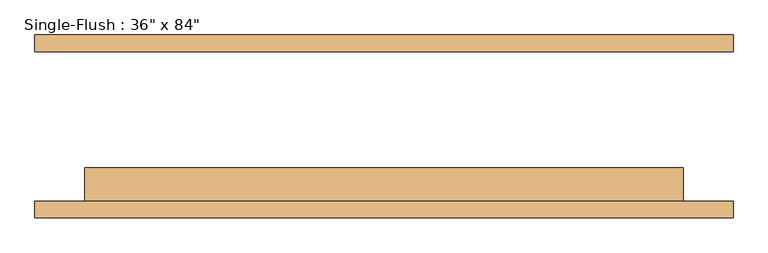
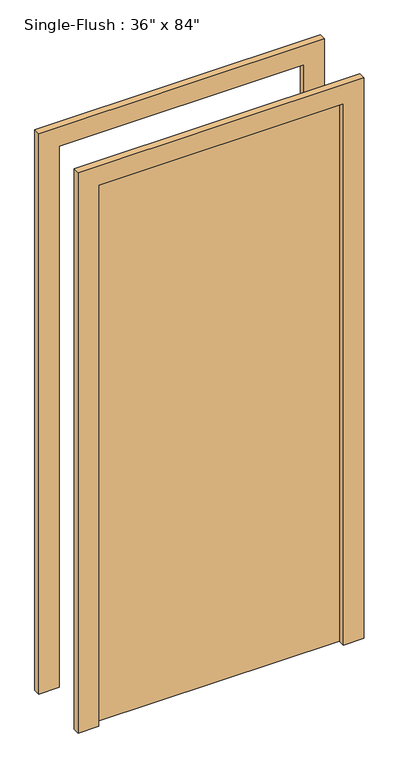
"""IFC4 building model written with IfcOpenShell, lengths in millimetres: door geometry."""

from ifc_helpers import new_model, si_unit, frame, origin, origin_with_axes, place, context, project, spatial, polyline, outline, extrude, source, transform, mapped, element, save


def door_a90ba1ad(model_context):
    return source(origin(), model_context, "Body", "SweptSolid", [
        extrude(outline(polyline([(2209.8, -533.4), (0.0, -533.4), (0.0, -457.2), (2133.6, -457.2), (2133.6, 457.2), (0.0, 457.2), (0.0, 533.4), (2209.8, 533.4), (2209.8, -533.4)])), frame((0.0, -139.7, 0.0), z_axis=(0.0, 1.0, 0.0), x_axis=(0.0, 0.0, 1.0)), (0.0, 0.0, 1.0), 25.4),
        extrude(outline(polyline([(2209.8, 533.4), (2209.8, -533.4), (0.0, -533.4), (0.0, -457.2), (2133.6, -457.2), (2133.6, 457.2), (0.0, 457.2), (0.0, 533.4), (2209.8, 533.4)])), frame((0.0, 114.3, 0.0), z_axis=(0.0, 1.0, 0.0), x_axis=(0.0, 0.0, 1.0)), (0.0, 0.0, 1.0), 25.4),
        extrude(outline(polyline([(457.2, -63.5), (457.2, -114.3), (-457.2, -114.3), (-457.2, -63.5), (457.2, -63.5)])), origin_with_axes(), (0.0, 0.0, 1.0), 2133.6),
    ])


if __name__ == "__main__":
    model = new_model("IFC4")
    model_context = context("Model", 3, world=origin())
    ifc_project = project(units=[si_unit("LENGTHUNIT", "METRE", prefix="MILLI")], contexts=[model_context])
    site = spatial("IfcSite", under=ifc_project)
    building = spatial("IfcBuilding", under=site)
    placement = place(None, origin())
    door_shape = door_a90ba1ad(model_context)
    element("IfcDoor", 1, ObjectType="Single-Flush : 36\" x 84\"", at=placement, inside=building, context=model_context, shape_type="MappedRepresentation", body=[
        mapped(door_shape, transform((0.0, 0.0, 0.0), x_axis=(1.0, 0.0, 0.0), y_axis=(0.0, 1.0, 0.0), z_axis=(0.0, 0.0, 1.0))),
    ])
    save(model, "model.ifc")
